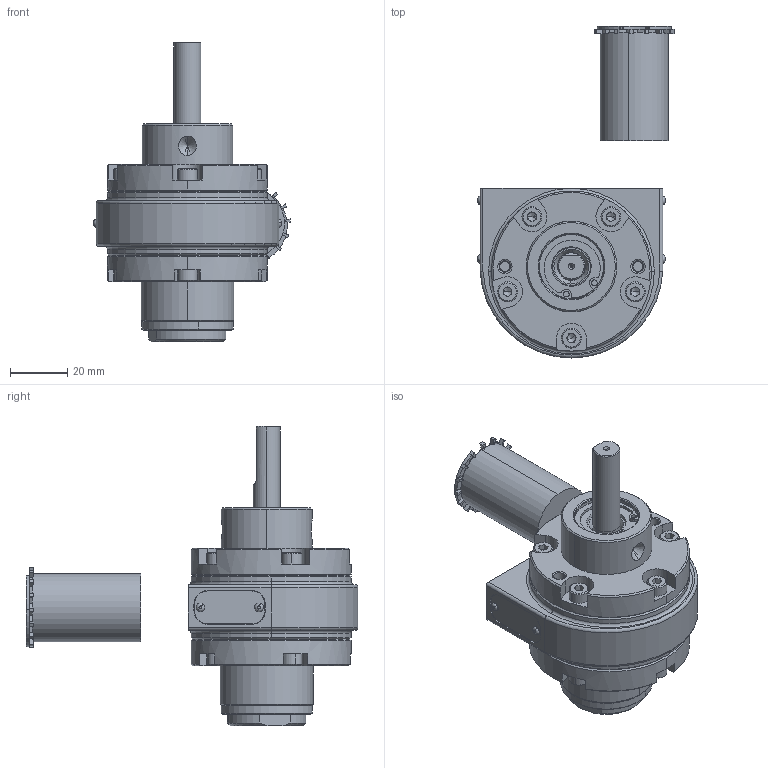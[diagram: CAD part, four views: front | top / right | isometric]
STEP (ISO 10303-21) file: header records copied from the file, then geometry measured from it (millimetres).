
FILE_DESCRIPTION (( 'STEP AP214' ), '1' );
FILE_NAME ('1VMT (Hub)_Solid 29-07-25.STEP', '2025-07-29T08:50:12', ( '' ), ( '' ), 'SwSTEP 2.0', 'SolidWorks 2017', '' );
FILE_SCHEMA (( 'AUTOMOTIVE_DESIGN' ));
Length unit declared in the file: millimetre
Products named in the file (2): 1VMT (Hub)_Solid 29-07-25
Bounding box: 68.79 x 116.18 x 104.93 mm (x, y, z)
Volume: 144315.6 mm3; surface area: 68516.6 mm2
Topology: 41 solids, 42 shells, 1295 faces, 3087 edges, 1895 vertices
Faces by surface type: plane 597, cylinder 354, cone 258, torus 86
Entity records: 54205 total; most frequent: CARTESIAN_POINT 7360, DIRECTION 6927, ORIENTED_EDGE 6288, EDGE_CURVE 3144, AXIS2_PLACEMENT_3D 2577, VERTEX_POINT 1956, VECTOR 1773, LINE 1773
